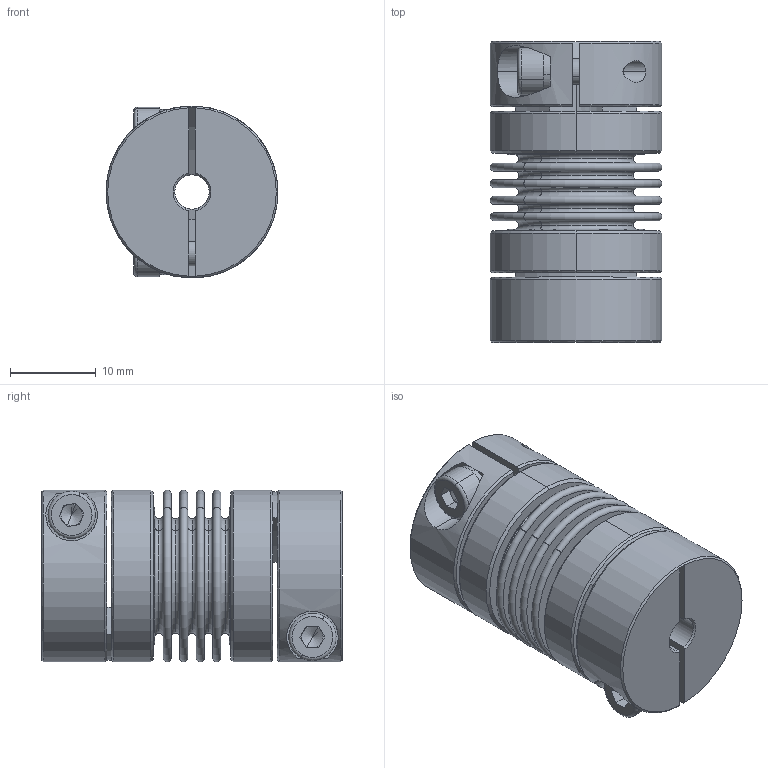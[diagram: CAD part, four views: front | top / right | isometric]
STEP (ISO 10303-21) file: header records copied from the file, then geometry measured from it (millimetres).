
FILE_DESCRIPTION (( 'STEP AP203' ), '1' );
FILE_NAME ('LB-B-D20L34-4-9.525.STEP', '2021-11-04T01:38:20', ( '' ), ( '' ), 'SwSTEP 2.0', 'SolidWorks 2018', '' );
FILE_SCHEMA (( 'CONFIG_CONTROL_DESIGN' ));
Length unit declared in the file: millimetre
Products named in the file (2): 零件4^LB-B-D20L34 波纹管联轴器-组装体; LB-B-D20L34-4-9.525
Assembly tree (1 placements, depth 2):
  LB-B-D20L34-4-9.525
    零件4^LB-B-D20L34 波纹管联轴器-组装体
Bounding box: 20 x 35 x 20 mm (x, y, z)
Volume: 5847.3 mm3; surface area: 9499 mm2
Topology: 1 solids, 1 shells, 246 faces, 572 edges, 354 vertices
Faces by surface type: plane 83, torus 68, cylinder 61, cone 34
Entity records: 7500 total; most frequent: CARTESIAN_POINT 1478, DIRECTION 1376, ORIENTED_EDGE 1136, AXIS2_PLACEMENT_3D 604, EDGE_CURVE 568, VERTEX_POINT 354, CIRCLE 354, EDGE_LOOP 288
